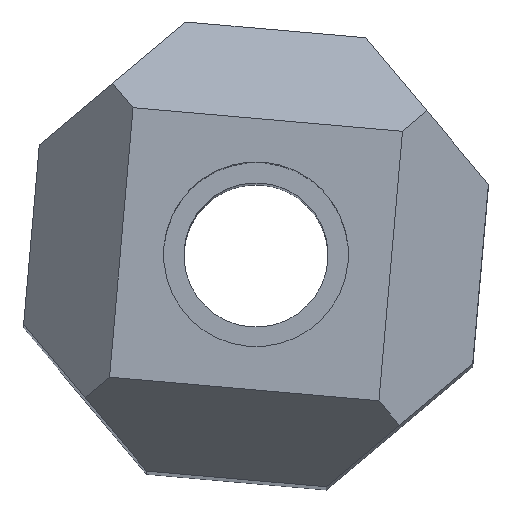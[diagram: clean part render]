
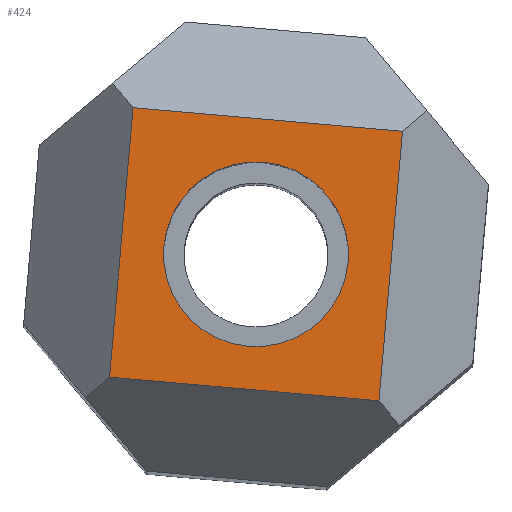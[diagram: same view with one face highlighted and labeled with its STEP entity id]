
A CAD part, top view. The second image highlights one B-rep face of the part: STEP entity #424.
In plain terms, the highlighted planar face has unit normal (0, 0, 1).
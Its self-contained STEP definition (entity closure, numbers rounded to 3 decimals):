
#16=FACE_BOUND('',#68,.T.);
#20=CIRCLE('',#460,2.05);
#43=FACE_OUTER_BOUND('',#67,.T.);
#67=EDGE_LOOP('',(#353,#354,#355,#356));
#68=EDGE_LOOP('',(#357));
#87=LINE('',#608,#138);
#89=LINE('',#612,#140);
#105=LINE('',#643,#156);
#121=LINE('',#673,#172);
#138=VECTOR('',#490,10.);
#140=VECTOR('',#494,10.);
#156=VECTOR('',#518,10.);
#172=VECTOR('',#544,10.);
#188=VERTEX_POINT('',#605);
#189=VERTEX_POINT('',#607);
#190=VERTEX_POINT('',#611);
#201=VERTEX_POINT('',#641);
#212=VERTEX_POINT('',#677);
#227=EDGE_CURVE('',#189,#188,#87,.T.);
#229=EDGE_CURVE('',#190,#189,#89,.T.);
#245=EDGE_CURVE('',#188,#201,#105,.T.);
#261=EDGE_CURVE('',#201,#190,#121,.T.);
#264=EDGE_CURVE('',#212,#212,#20,.T.);
#353=ORIENTED_EDGE('',*,*,#227,.T.);
#354=ORIENTED_EDGE('',*,*,#245,.T.);
#355=ORIENTED_EDGE('',*,*,#261,.T.);
#356=ORIENTED_EDGE('',*,*,#229,.T.);
#357=ORIENTED_EDGE('',*,*,#264,.F.);
#403=PLANE('',#464);
#424=ADVANCED_FACE('',(#43,#16),#403,.F.);
#460=AXIS2_PLACEMENT_3D('',#679,#550,#551);
#464=AXIS2_PLACEMENT_3D('',#685,#559,#560);
#490=DIRECTION('',(-0.087,-0.996,0.));
#494=DIRECTION('',(-0.996,0.087,0.));
#518=DIRECTION('',(0.996,-0.087,0.));
#544=DIRECTION('',(0.087,0.996,0.));
#550=DIRECTION('center_axis',(0.,0.,
1.));
#551=DIRECTION('ref_axis',(-0.996,0.087,0.));
#559=DIRECTION('center_axis',(0.,0.,
-1.));
#560=DIRECTION('ref_axis',(0.996,-0.087,0.));
#605=CARTESIAN_POINT('',(-5.058,-3.128,55.));
#607=CARTESIAN_POINT('',(-4.535,2.849,55.));
#608=CARTESIAN_POINT('',(-5.014,-2.63,55.));
#611=CARTESIAN_POINT('',(1.442,2.326,55.));
#612=CARTESIAN_POINT('',(-4.037,2.805,55.));
#641=CARTESIAN_POINT('',(0.919,-3.651,55.));
#643=CARTESIAN_POINT('',(0.421,-3.608,55.));
#673=CARTESIAN_POINT('',(1.399,1.828,55.));
#677=CARTESIAN_POINT('',(0.235,-0.58,55.));
#679=CARTESIAN_POINT('Origin',(-1.808,-0.401,55.));
#685=CARTESIAN_POINT('Origin',(-1.808,-0.401,55.));
